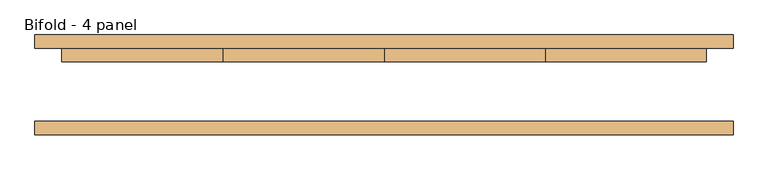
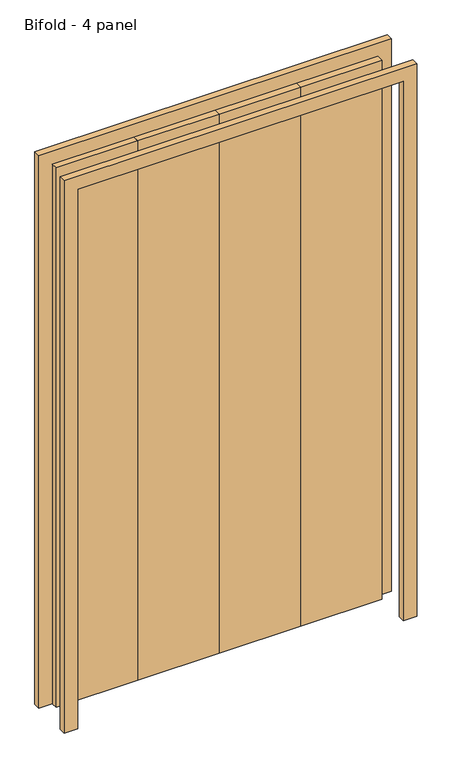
"""IFC4 building model written with IfcOpenShell, lengths in millimetres: door geometry."""

from ifc_helpers import new_model, si_unit, frame, origin, origin_with_axes, place, context, project, spatial, polyline, outline, extrude, source, transform, mapped, element, save


def bifold_4_panel_87549022(model_context):
    return source(origin(), model_context, "Body", "SweptSolid", [
        extrude(outline(polyline([(0.0, 660.4), (2184.4, 660.4), (2184.4, -660.4), (0.0, -660.4), (0.0, -609.6), (2133.6, -609.6), (2133.6, 609.6), (0.0, 609.6), (0.0, 660.4)])), frame((0.0, -101.6, 0.0), z_axis=(0.0, 1.0, 0.0), x_axis=(0.0, 0.0, 1.0)), (0.0, 0.0, 1.0), 25.4),
        extrude(outline(polyline([(0.0, 660.4), (2184.4, 660.4), (2184.4, -660.4), (0.0, -660.4), (0.0, -609.6), (2133.6, -609.6), (2133.6, 609.6), (0.0, 609.6), (0.0, 660.4)])), frame((0.0, 61.9125, 0.0), z_axis=(0.0, 1.0, 0.0), x_axis=(0.0, 0.0, 1.0)), (0.0, 0.0, 1.0), 25.4),
        extrude(outline(polyline([(-609.6, 61.9125), (-304.8, 61.9125), (-304.8, 36.5125), (-609.6, 36.5125), (-609.6, 61.9125)])), origin_with_axes(), (0.0, 0.0, 1.0), 2133.6),
        extrude(outline(polyline([(-304.8, 61.9125), (0.0, 61.9125), (0.0, 36.5125), (-304.8, 36.5125), (-304.8, 61.9125)])), origin_with_axes(), (0.0, 0.0, 1.0), 2133.6),
        extrude(outline(polyline([(0.0, 61.9125), (304.8, 61.9125), (304.8, 36.5125), (0.0, 36.5125), (0.0, 61.9125)])), origin_with_axes(), (0.0, 0.0, 1.0), 2133.6),
        extrude(outline(polyline([(304.8, 61.9125), (609.6, 61.9125), (609.6, 36.5125), (304.8, 36.5125), (304.8, 61.9125)])), origin_with_axes(), (0.0, 0.0, 1.0), 2133.6),
    ])


if __name__ == "__main__":
    model = new_model("IFC4")
    model_context = context("Model", 3, world=origin())
    ifc_project = project(units=[si_unit("LENGTHUNIT", "METRE", prefix="MILLI")], contexts=[model_context])
    site = spatial("IfcSite", under=ifc_project)
    building = spatial("IfcBuilding", under=site)
    placement = place(None, origin())
    bifold_4_panel_shape = bifold_4_panel_87549022(model_context)
    element("IfcDoor", 1, ObjectType="Bifold - 4 panel : 48\" x  84\"", at=placement, inside=building, context=model_context, shape_type="MappedRepresentation", body=[
        mapped(bifold_4_panel_shape, transform((0.0, 0.0, 0.0), x_axis=(1.0, 0.0, 0.0), y_axis=(0.0, 1.0, 0.0), z_axis=(0.0, 0.0, 1.0))),
    ])
    save(model, "model.ifc")
